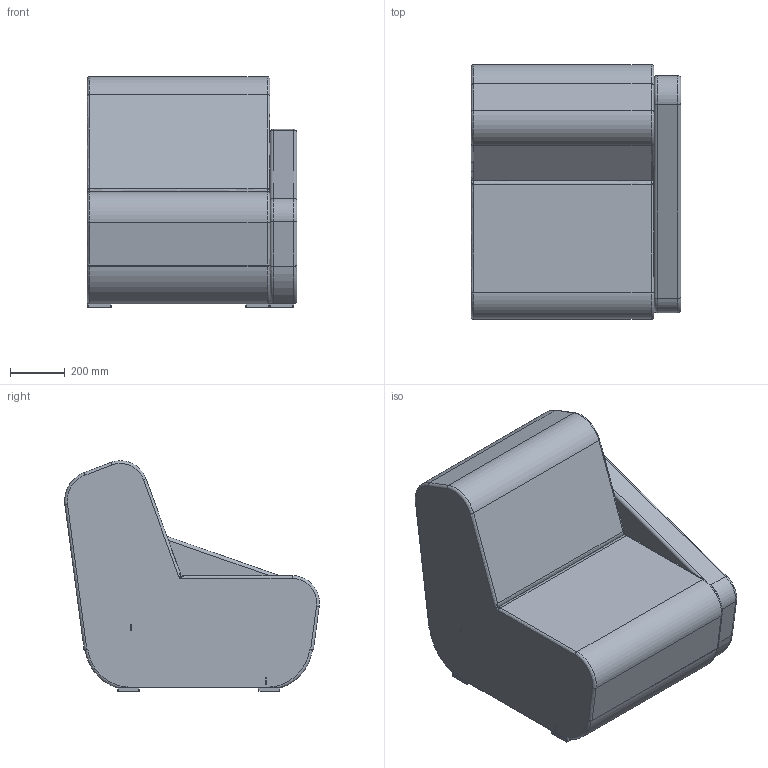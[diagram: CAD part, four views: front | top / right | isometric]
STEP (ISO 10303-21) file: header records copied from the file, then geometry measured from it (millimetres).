
FILE_DESCRIPTION(/* description */ (''),/* implementation_level */ '2;1');
FILE_NAME(/* name */ 'OPAFC6~1',/* time_stamp */ '2015-09-28T22:05:09+02:00',/* author */ (''),/* organization */ (''),/* preprocessor_version */ 'ST-DEVELOPER v15',/* originating_system */ '',/* authorisation */ '');
FILE_SCHEMA (('AUTOMOTIVE_DESIGN'));
Length unit declared in the file: millimetre
Products named in the file (1): Document
Bounding box: 770.5 x 934.88 x 845.56 mm (x, y, z)
Volume: 400909.2 mm3; surface area: 4146568.8 mm2
Topology: 4 solids, 13 shells, 122 faces, 354 edges, 242 vertices
Faces by surface type: bspline 99, plane 23
Entity records: 4957 total; most frequent: CARTESIAN_POINT 3098, ORIENTED_EDGE 572, EDGE_CURVE 342, VERTEX_POINT 236, ADVANCED_FACE 122, FACE_OUTER_BOUND 122, EDGE_LOOP 122, B_SPLINE_CURVE_WITH_KNOTS 67
